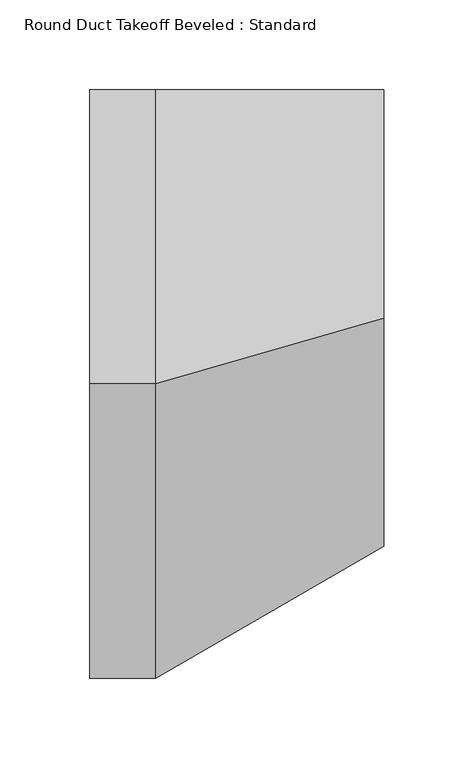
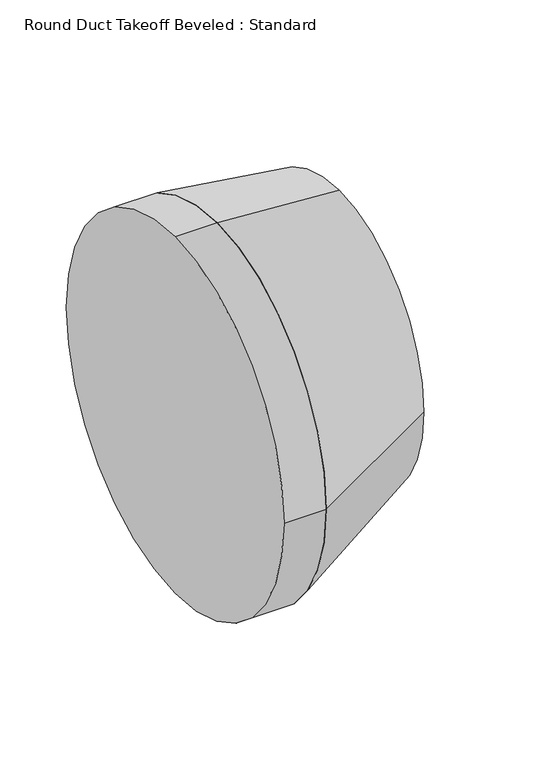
"""IFC4 building model written with IfcOpenShell, lengths in millimetres: duct fitting geometry, Round Duct Takeoff Beveled : Standard."""

from ifc_helpers import new_model, si_unit, point, frame, frame_2d, origin, place, context, project, spatial, circle_curve, trimmed, segment, composite_curve, outline, extrude, source, transform, mapped, element, save
from ifc_brep_helpers import plane_surface, spline_surface, advanced_brep


def round_duct_takeoff_beveled_standard_77c3d9e6(model_context):
    return source(origin(), model_context, "Body", "SolidModel", [
        advanced_brep(
        [(127.0, 127.0, 0.0), (127.0, 0.0, 127.0), (127.0, -127.0, 0.0), (127.0, 0.0, -127.0), (0.0, 127.0, 0.0), (0.0, -36.6617421, -163.6617421), (0.0, -200.3234842, 0.0), (0.0, -36.6617421, 163.6617421)],
        [
            (0, 1, circle_curve(frame((127.0, 0.0, 0.0), z_axis=(1.0, 0.0, 0.0), x_axis=(0.0, -1.0, 0.0)), 127.0)),
            (1, 2, circle_curve(frame((127.0, 0.0, 0.0), z_axis=(1.0, 0.0, 0.0), x_axis=(0.0, -1.0, 0.0)), 127.0)),
            (2, 3, circle_curve(frame((127.0, 0.0, 0.0), z_axis=(1.0, 0.0, 0.0), x_axis=(0.0, -1.0, 0.0)), 127.0)),
            (3, 0, circle_curve(frame((127.0, 0.0, 0.0), z_axis=(1.0, 0.0, 0.0), x_axis=(0.0, -1.0, 0.0)), 127.0)),
            (4, 5, circle_curve(frame((0.0, -36.6617421, 0.0), z_axis=(-1.0, 0.0, 0.0), x_axis=(0.0, -1.0, 0.0)), 163.6617421)),
            (5, 6, circle_curve(frame((0.0, -36.6617421, 0.0), z_axis=(-1.0, 0.0, 0.0), x_axis=(0.0, -1.0, 0.0)), 163.6617421)),
            (6, 7, circle_curve(frame((0.0, -36.6617421, 0.0), z_axis=(-1.0, 0.0, 0.0), x_axis=(0.0, -1.0, 0.0)), 163.6617421)),
            (7, 4, circle_curve(frame((0.0, -36.6617421, 0.0), z_axis=(-1.0, 0.0, 0.0), x_axis=(0.0, -1.0, 0.0)), 163.6617421)),
            (4, 0),
            (3, 5),
            (2, 6),
            (1, 7),
        ],
        [
            plane_surface(frame((127.0, 0.0, 0.0), z_axis=(1.0, 0.0, 0.0), x_axis=(0.0, 0.0, 1.0))),
            plane_surface(frame((0.0, -36.6617421, 0.0), z_axis=(-1.0, 0.0, 0.0), x_axis=(0.0, 0.0, 1.0))),
            spline_surface(1, 2, [[(0.0, 127.0, 0.0), (0.0, 127.0, -163.6617421), (0.0, -36.6617421, -163.6617421)], [(127.0, 127.0, 0.0), (127.0, 127.0, -127.0), (127.0, 0.0, -127.0)]], [2, 2], [3, 3], [0.0, 1.0], [0.0, 1.0], weights=[[1.0, 0.7071067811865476, 1.0], [1.0, 0.7071067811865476, 1.0]]),
            spline_surface(1, 2, [[(0.0, -36.6617421, -163.6617421), (0.0, -200.3234842, -163.6617421), (0.0, -200.3234842, 0.0)], [(127.0, 0.0, -127.0), (127.0, -127.0, -127.0), (127.0, -127.0, 0.0)]], [2, 2], [3, 3], [0.0, 1.0], [0.0, 1.0], weights=[[1.0, 0.7071067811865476, 1.0], [1.0, 0.7071067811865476, 1.0]]),
            spline_surface(1, 2, [[(0.0, -200.3234842, 0.0), (0.0, -200.3234842, 163.6617421), (0.0, -36.6617421, 163.6617421)], [(127.0, -127.0, 0.0), (127.0, -127.0, 127.0), (127.0, 0.0, 127.0)]], [2, 2], [3, 3], [0.0, 1.0], [0.0, 1.0], weights=[[1.0, 0.7071067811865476, 1.0], [1.0, 0.7071067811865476, 1.0]]),
            spline_surface(1, 2, [[(0.0, -36.6617421, 163.6617421), (0.0, 127.0, 163.6617421), (0.0, 127.0, 0.0)], [(127.0, 0.0, 127.0), (127.0, 127.0, 127.0), (127.0, 127.0, 0.0)]], [2, 2], [3, 3], [0.0, 1.0], [0.0, 1.0], weights=[[1.0, 0.7071067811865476, 1.0], [1.0, 0.7071067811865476, 1.0]]),
        ],
        [
            (0, [[1, 2, 3, 4]]),
            (1, [[5, 6, 7, 8]]),
            (2, [[9, -4, 10, -5]]),
            (3, [[-10, -3, 11, -6]]),
            (4, [[-11, -2, 12, -7]]),
            (5, [[-12, -1, -9, -8]]),
        ],
    ),
        advanced_brep(
        [(127.0, 127.0, 0.0), (127.0, 0.0, 127.0), (127.0, -127.0, 0.0), (127.0, 0.0, -127.0), (0.0, 127.0, 0.0), (0.0, -36.6617421, -163.6617421), (0.0, -200.3234842, 0.0), (0.0, -36.6617421, 163.6617421)],
        [
            (0, 1, circle_curve(frame((127.0, 0.0, 0.0), z_axis=(1.0, 0.0, 0.0), x_axis=(0.0, -1.0, 0.0)), 127.0)),
            (1, 2, circle_curve(frame((127.0, 0.0, 0.0), z_axis=(1.0, 0.0, 0.0), x_axis=(0.0, -1.0, 0.0)), 127.0)),
            (2, 3, circle_curve(frame((127.0, 0.0, 0.0), z_axis=(1.0, 0.0, 0.0), x_axis=(0.0, -1.0, 0.0)), 127.0)),
            (3, 0, circle_curve(frame((127.0, 0.0, 0.0), z_axis=(1.0, 0.0, 0.0), x_axis=(0.0, -1.0, 0.0)), 127.0)),
            (4, 5, circle_curve(frame((0.0, -36.6617421, 0.0), z_axis=(-1.0, 0.0, 0.0), x_axis=(0.0, -1.0, 0.0)), 163.6617421)),
            (5, 6, circle_curve(frame((0.0, -36.6617421, 0.0), z_axis=(-1.0, 0.0, 0.0), x_axis=(0.0, -1.0, 0.0)), 163.6617421)),
            (6, 7, circle_curve(frame((0.0, -36.6617421, 0.0), z_axis=(-1.0, 0.0, 0.0), x_axis=(0.0, -1.0, 0.0)), 163.6617421)),
            (7, 4, circle_curve(frame((0.0, -36.6617421, 0.0), z_axis=(-1.0, 0.0, 0.0), x_axis=(0.0, -1.0, 0.0)), 163.6617421)),
            (4, 0),
            (3, 5),
            (2, 6),
            (1, 7),
        ],
        [
            plane_surface(frame((127.0, 0.0, 0.0), z_axis=(1.0, 0.0, 0.0), x_axis=(0.0, 0.0, 1.0))),
            plane_surface(frame((0.0, -36.6617421, 0.0), z_axis=(-1.0, 0.0, 0.0), x_axis=(0.0, 0.0, 1.0))),
            spline_surface(1, 2, [[(0.0, 127.0, 0.0), (0.0, 127.0, -163.6617421), (0.0, -36.6617421, -163.6617421)], [(127.0, 127.0, 0.0), (127.0, 127.0, -127.0), (127.0, 0.0, -127.0)]], [2, 2], [3, 3], [0.0, 1.0], [0.0, 1.0], weights=[[1.0, 0.7071067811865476, 1.0], [1.0, 0.7071067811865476, 1.0]]),
            spline_surface(1, 2, [[(0.0, -36.6617421, -163.6617421), (0.0, -200.3234842, -163.6617421), (0.0, -200.3234842, 0.0)], [(127.0, 0.0, -127.0), (127.0, -127.0, -127.0), (127.0, -127.0, 0.0)]], [2, 2], [3, 3], [0.0, 1.0], [0.0, 1.0], weights=[[1.0, 0.7071067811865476, 1.0], [1.0, 0.7071067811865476, 1.0]]),
            spline_surface(1, 2, [[(0.0, -200.3234842, 0.0), (0.0, -200.3234842, 163.6617421), (0.0, -36.6617421, 163.6617421)], [(127.0, -127.0, 0.0), (127.0, -127.0, 127.0), (127.0, 0.0, 127.0)]], [2, 2], [3, 3], [0.0, 1.0], [0.0, 1.0], weights=[[1.0, 0.7071067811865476, 1.0], [1.0, 0.7071067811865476, 1.0]]),
            spline_surface(1, 2, [[(0.0, -36.6617421, 163.6617421), (0.0, 127.0, 163.6617421), (0.0, 127.0, 0.0)], [(127.0, 0.0, 127.0), (127.0, 127.0, 127.0), (127.0, 127.0, 0.0)]], [2, 2], [3, 3], [0.0, 1.0], [0.0, 1.0], weights=[[1.0, 0.7071067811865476, 1.0], [1.0, 0.7071067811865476, 1.0]]),
        ],
        [
            (0, [[1, 2, 3, 4]]),
            (1, [[5, 6, 7, 8]]),
            (2, [[9, -4, 10, -5]]),
            (3, [[-10, -3, 11, -6]]),
            (4, [[-11, -2, 12, -7]]),
            (5, [[-12, -1, -9, -8]]),
        ],
    ),
        advanced_brep(
        [(127.0, 127.0, 0.0), (127.0, 0.0, 127.0), (127.0, -127.0, 0.0), (127.0, 0.0, -127.0), (0.0, 127.0, 0.0), (0.0, -36.6617421, -163.6617421), (0.0, -200.3234842, 0.0), (0.0, -36.6617421, 163.6617421)],
        [
            (0, 1, circle_curve(frame((127.0, 0.0, 0.0), z_axis=(1.0, 0.0, 0.0), x_axis=(0.0, -1.0, 0.0)), 127.0)),
            (1, 2, circle_curve(frame((127.0, 0.0, 0.0), z_axis=(1.0, 0.0, 0.0), x_axis=(0.0, -1.0, 0.0)), 127.0)),
            (2, 3, circle_curve(frame((127.0, 0.0, 0.0), z_axis=(1.0, 0.0, 0.0), x_axis=(0.0, -1.0, 0.0)), 127.0)),
            (3, 0, circle_curve(frame((127.0, 0.0, 0.0), z_axis=(1.0, 0.0, 0.0), x_axis=(0.0, -1.0, 0.0)), 127.0)),
            (4, 5, circle_curve(frame((0.0, -36.6617421, 0.0), z_axis=(-1.0, 0.0, 0.0), x_axis=(0.0, -1.0, 0.0)), 163.6617421)),
            (5, 6, circle_curve(frame((0.0, -36.6617421, 0.0), z_axis=(-1.0, 0.0, 0.0), x_axis=(0.0, -1.0, 0.0)), 163.6617421)),
            (6, 7, circle_curve(frame((0.0, -36.6617421, 0.0), z_axis=(-1.0, 0.0, 0.0), x_axis=(0.0, -1.0, 0.0)), 163.6617421)),
            (7, 4, circle_curve(frame((0.0, -36.6617421, 0.0), z_axis=(-1.0, 0.0, 0.0), x_axis=(0.0, -1.0, 0.0)), 163.6617421)),
            (4, 0),
            (3, 5),
            (2, 6),
            (1, 7),
        ],
        [
            plane_surface(frame((127.0, 0.0, 0.0), z_axis=(1.0, 0.0, 0.0), x_axis=(0.0, 0.0, 1.0))),
            plane_surface(frame((0.0, -36.6617421, 0.0), z_axis=(-1.0, 0.0, 0.0), x_axis=(0.0, 0.0, 1.0))),
            spline_surface(1, 2, [[(0.0, 127.0, 0.0), (0.0, 127.0, -163.6617421), (0.0, -36.6617421, -163.6617421)], [(127.0, 127.0, 0.0), (127.0, 127.0, -127.0), (127.0, 0.0, -127.0)]], [2, 2], [3, 3], [0.0, 1.0], [0.0, 1.0], weights=[[1.0, 0.7071067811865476, 1.0], [1.0, 0.7071067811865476, 1.0]]),
            spline_surface(1, 2, [[(0.0, -36.6617421, -163.6617421), (0.0, -200.3234842, -163.6617421), (0.0, -200.3234842, 0.0)], [(127.0, 0.0, -127.0), (127.0, -127.0, -127.0), (127.0, -127.0, 0.0)]], [2, 2], [3, 3], [0.0, 1.0], [0.0, 1.0], weights=[[1.0, 0.7071067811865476, 1.0], [1.0, 0.7071067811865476, 1.0]]),
            spline_surface(1, 2, [[(0.0, -200.3234842, 0.0), (0.0, -200.3234842, 163.6617421), (0.0, -36.6617421, 163.6617421)], [(127.0, -127.0, 0.0), (127.0, -127.0, 127.0), (127.0, 0.0, 127.0)]], [2, 2], [3, 3], [0.0, 1.0], [0.0, 1.0], weights=[[1.0, 0.7071067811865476, 1.0], [1.0, 0.7071067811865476, 1.0]]),
            spline_surface(1, 2, [[(0.0, -36.6617421, 163.6617421), (0.0, 127.0, 163.6617421), (0.0, 127.0, 0.0)], [(127.0, 0.0, 127.0), (127.0, 127.0, 127.0), (127.0, 127.0, 0.0)]], [2, 2], [3, 3], [0.0, 1.0], [0.0, 1.0], weights=[[1.0, 0.7071067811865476, 1.0], [1.0, 0.7071067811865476, 1.0]]),
        ],
        [
            (0, [[1, 2, 3, 4]]),
            (1, [[5, 6, 7, 8]]),
            (2, [[9, -4, 10, -5]]),
            (3, [[-10, -3, 11, -6]]),
            (4, [[-11, -2, 12, -7]]),
            (5, [[-12, -1, -9, -8]]),
        ],
    ),
        extrude(outline(composite_curve([segment(trimmed(circle_curve(frame_2d((-36.6617421, 0.0)), 163.6617421), [point((-36.6617421, 163.6617421))], [point((127.0, 0.0))], False, "CARTESIAN"), True, "CONTINUOUS"), segment(trimmed(circle_curve(frame_2d((-36.6617421, 0.0)), 163.6617421), [point((127.0, 0.0))], [point((-36.6617421, -163.6617421))], False, "CARTESIAN"), True, "CONTINUOUS"), segment(trimmed(circle_curve(frame_2d((-36.6617421, 0.0)), 163.6617421), [point((-36.6617421, -163.6617421))], [point((-200.3234842, 0.0))], False, "CARTESIAN"), True, "CONTINUOUS"), segment(trimmed(circle_curve(frame_2d((-36.6617421, 0.0)), 163.6617421), [point((-200.3234842, 0.0))], [point((-36.6617421, 163.6617421))], False, "CARTESIAN"), True, "CONTINUOUS")], self_intersect=False)), frame((-36.6278421, 0.0, 0.0), z_axis=(1.0, 0.0, 0.0), x_axis=(0.0, 1.0, 0.0)), (0.0, 0.0, 1.0), 36.6278421),
        extrude(outline(composite_curve([segment(trimmed(circle_curve(frame_2d((-36.6617421, 0.0)), 163.6617421), [point((-36.6617421, 163.6617421))], [point((127.0, 0.0))], False, "CARTESIAN"), True, "CONTINUOUS"), segment(trimmed(circle_curve(frame_2d((-36.6617421, 0.0)), 163.6617421), [point((127.0, 0.0))], [point((-36.6617421, -163.6617421))], False, "CARTESIAN"), True, "CONTINUOUS"), segment(trimmed(circle_curve(frame_2d((-36.6617421, 0.0)), 163.6617421), [point((-36.6617421, -163.6617421))], [point((-200.3234842, 0.0))], False, "CARTESIAN"), True, "CONTINUOUS"), segment(trimmed(circle_curve(frame_2d((-36.6617421, 0.0)), 163.6617421), [point((-200.3234842, 0.0))], [point((-36.6617421, 163.6617421))], False, "CARTESIAN"), True, "CONTINUOUS")], self_intersect=False)), frame((-36.6278421, 0.0, 0.0), z_axis=(1.0, 0.0, 0.0), x_axis=(0.0, 1.0, 0.0)), (0.0, 0.0, 1.0), 36.6278421),
        extrude(outline(composite_curve([segment(trimmed(circle_curve(frame_2d((-36.6617421, 0.0)), 163.6617421), [point((-36.6617421, 163.6617421))], [point((127.0, 0.0))], False, "CARTESIAN"), True, "CONTINUOUS"), segment(trimmed(circle_curve(frame_2d((-36.6617421, 0.0)), 163.6617421), [point((127.0, 0.0))], [point((-36.6617421, -163.6617421))], False, "CARTESIAN"), True, "CONTINUOUS"), segment(trimmed(circle_curve(frame_2d((-36.6617421, 0.0)), 163.6617421), [point((-36.6617421, -163.6617421))], [point((-200.3234842, 0.0))], False, "CARTESIAN"), True, "CONTINUOUS"), segment(trimmed(circle_curve(frame_2d((-36.6617421, 0.0)), 163.6617421), [point((-200.3234842, 0.0))], [point((-36.6617421, 163.6617421))], False, "CARTESIAN"), True, "CONTINUOUS")], self_intersect=False)), frame((-36.6278421, 0.0, 0.0), z_axis=(1.0, 0.0, 0.0), x_axis=(0.0, 1.0, 0.0)), (0.0, 0.0, 1.0), 36.6278421),
    ])


if __name__ == "__main__":
    model = new_model("IFC4")
    model_context = context("Model", 3, world=origin())
    ifc_project = project(units=[si_unit("LENGTHUNIT", "METRE", prefix="MILLI")], contexts=[model_context])
    site = spatial("IfcSite", under=ifc_project)
    building = spatial("IfcBuilding", under=site)
    placement = place(None, origin())
    round_duct_takeoff_beveled_standard_shape = round_duct_takeoff_beveled_standard_77c3d9e6(model_context)
    element("IfcDuctFitting", 1, ObjectType="Round Duct Takeoff Beveled : Standard", at=placement, inside=building, context=model_context, shape_type="MappedRepresentation", body=[
        mapped(round_duct_takeoff_beveled_standard_shape, transform((0.0, 0.0, 0.0), x_axis=(1.0, 0.0, 0.0), y_axis=(0.0, 1.0, 0.0), z_axis=(0.0, 0.0, 1.0))),
    ])
    save(model, "model.ifc")
